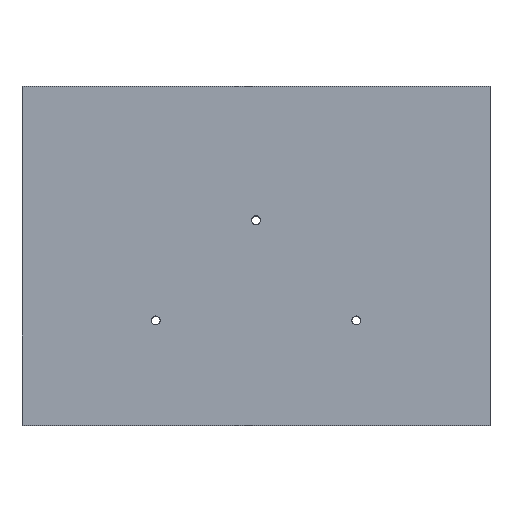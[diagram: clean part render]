
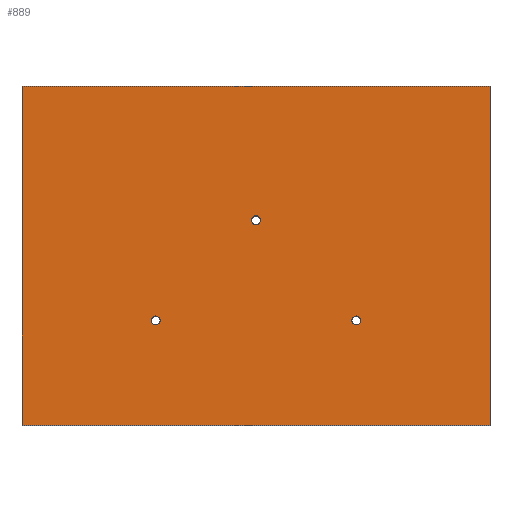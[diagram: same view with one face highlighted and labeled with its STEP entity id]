
A CAD part, top view. The second image highlights one B-rep face of the part: STEP entity #889.
In plain terms, the highlighted planar face has unit normal (0, 0, 1).
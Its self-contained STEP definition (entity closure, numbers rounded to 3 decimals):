
#13 = EDGE_CURVE ( 'NONE', #1559, #1184, #1254, .T. ) ;
#49 = AXIS2_PLACEMENT_3D ( 'NONE', #564, #1050, #1547 ) ;
#53 = VERTEX_POINT ( 'NONE', #1040 ) ;
#57 = CARTESIAN_POINT ( 'NONE',  ( 30., 23.5, 22.5 ) ) ;
#74 = DIRECTION ( 'NONE',  ( 0., 1., 0. ) ) ;
#79 = VERTEX_POINT ( 'NONE', #417 ) ;
#92 = DIRECTION ( 'NONE',  ( 0., 0., 1. ) ) ;
#127 = AXIS2_PLACEMENT_3D ( 'NONE', #1448, #1311, #701 ) ;
#158 = PLANE ( 'NONE',  #1099 ) ;
#176 = LINE ( 'NONE', #1054, #681 ) ;
#186 = DIRECTION ( 'NONE',  ( -1., 0., 0. ) ) ;
#194 = CARTESIAN_POINT ( 'NONE',  ( 52.5, 46., 22.5 ) ) ;
#253 = CARTESIAN_POINT ( 'NONE',  ( 0., 0., 22.5 ) ) ;
#260 = CIRCLE ( 'NONE', #389, 1. ) ;
#317 = FACE_BOUND ( 'NONE', #1488, .T. ) ;
#351 = ORIENTED_EDGE ( 'NONE', *, *, #1476, .F. ) ;
#385 = ORIENTED_EDGE ( 'NONE', *, *, #1500, .F. ) ;
#389 = AXIS2_PLACEMENT_3D ( 'NONE', #194, #1432, #1276 ) ;
#417 = CARTESIAN_POINT ( 'NONE',  ( 74., 23.5, 22.5 ) ) ;
#419 = VERTEX_POINT ( 'NONE', #629 ) ;
#430 = FACE_OUTER_BOUND ( 'NONE', #1601, .T. ) ;
#449 = EDGE_CURVE ( 'NONE', #1539, #1559, #176, .T. ) ;
#469 = CIRCLE ( 'NONE', #1477, 1. ) ;
#478 = EDGE_CURVE ( 'NONE', #53, #617, #260, .T. ) ;
#497 = VERTEX_POINT ( 'NONE', #805 ) ;
#501 = ORIENTED_EDGE ( 'NONE', *, *, #13, .T. ) ;
#510 = CARTESIAN_POINT ( 'NONE',  ( 0., 76., 22.5 ) ) ;
#538 = CARTESIAN_POINT ( 'NONE',  ( 31., 23.5, 22.5 ) ) ;
#544 = DIRECTION ( 'NONE',  ( 0., 0., 1. ) ) ;
#564 = CARTESIAN_POINT ( 'NONE',  ( 75., 23.5, 22.5 ) ) ;
#565 = EDGE_LOOP ( 'NONE', ( #1061, #385 ) ) ;
#568 = EDGE_CURVE ( 'NONE', #497, #1285, #881, .T. ) ;
#578 = VECTOR ( 'NONE', #816, 1000. ) ;
#584 = CARTESIAN_POINT ( 'NONE',  ( 51.5, 46., 22.5 ) ) ;
#593 = CARTESIAN_POINT ( 'NONE',  ( 0., 0., 22.5 ) ) ;
#617 = VERTEX_POINT ( 'NONE', #584 ) ;
#629 = CARTESIAN_POINT ( 'NONE',  ( 76., 23.5, 22.5 ) ) ;
#641 = VERTEX_POINT ( 'NONE', #949 ) ;
#650 = FACE_BOUND ( 'NONE', #565, .T. ) ;
#670 = EDGE_CURVE ( 'NONE', #419, #79, #682, .T. ) ;
#681 = VECTOR ( 'NONE', #186, 1000. ) ;
#682 = CIRCLE ( 'NONE', #808, 1. ) ;
#701 = DIRECTION ( 'NONE',  ( 1., 0., 0. ) ) ;
#707 = LINE ( 'NONE', #1066, #831 ) ;
#748 = CARTESIAN_POINT ( 'NONE',  ( 105., 76., 22.5 ) ) ;
#805 = CARTESIAN_POINT ( 'NONE',  ( 29., 23.5, 22.5 ) ) ;
#808 = AXIS2_PLACEMENT_3D ( 'NONE', #1088, #1196, #1560 ) ;
#811 = ORIENTED_EDGE ( 'NONE', *, *, #1227, .F. ) ;
#816 = DIRECTION ( 'NONE',  ( 1., 0., 0. ) ) ;
#831 = VECTOR ( 'NONE', #74, 1000. ) ;
#879 = ORIENTED_EDGE ( 'NONE', *, *, #1469, .T. ) ;
#881 = CIRCLE ( 'NONE', #1503, 1. ) ;
#889 = ADVANCED_FACE ( 'NONE', ( #430, #1294, #650, #317 ), #158, .F. ) ;
#901 = CIRCLE ( 'NONE', #49, 1. ) ;
#905 = CARTESIAN_POINT ( 'NONE',  ( 0., 0., 22.5 ) ) ;
#912 = ORIENTED_EDGE ( 'NONE', *, *, #670, .F. ) ;
#949 = CARTESIAN_POINT ( 'NONE',  ( 105., 0., 22.5 ) ) ;
#1027 = DIRECTION ( 'NONE',  ( 0., 0., -1. ) ) ;
#1029 = DIRECTION ( 'NONE',  ( 1., 0., 0. ) ) ;
#1040 = CARTESIAN_POINT ( 'NONE',  ( 53.5, 46., 22.5 ) ) ;
#1050 = DIRECTION ( 'NONE',  ( 0., 0., 1. ) ) ;
#1054 = CARTESIAN_POINT ( 'NONE',  ( 0., 76., 22.5 ) ) ;
#1061 = ORIENTED_EDGE ( 'NONE', *, *, #568, .F. ) ;
#1066 = CARTESIAN_POINT ( 'NONE',  ( 105., 0., 22.5 ) ) ;
#1088 = CARTESIAN_POINT ( 'NONE',  ( 75., 23.5, 22.5 ) ) ;
#1099 = AXIS2_PLACEMENT_3D ( 'NONE', #905, #1027, #1419 ) ;
#1139 = CIRCLE ( 'NONE', #127, 1. ) ;
#1177 = ORIENTED_EDGE ( 'NONE', *, *, #478, .F. ) ;
#1179 = VECTOR ( 'NONE', #1584, 1000. ) ;
#1184 = VERTEX_POINT ( 'NONE', #253 ) ;
#1196 = DIRECTION ( 'NONE',  ( 0., 0., 1. ) ) ;
#1205 = CARTESIAN_POINT ( 'NONE',  ( 30., 23.5, 22.5 ) ) ;
#1227 = EDGE_CURVE ( 'NONE', #79, #419, #901, .T. ) ;
#1254 = LINE ( 'NONE', #1481, #1179 ) ;
#1276 = DIRECTION ( 'NONE',  ( 1., 0., 0. ) ) ;
#1285 = VERTEX_POINT ( 'NONE', #538 ) ;
#1294 = FACE_BOUND ( 'NONE', #1315, .T. ) ;
#1295 = ORIENTED_EDGE ( 'NONE', *, *, #449, .T. ) ;
#1311 = DIRECTION ( 'NONE',  ( 0., 0., 1. ) ) ;
#1315 = EDGE_LOOP ( 'NONE', ( #351, #1177 ) ) ;
#1334 = ORIENTED_EDGE ( 'NONE', *, *, #1353, .T. ) ;
#1353 = EDGE_CURVE ( 'NONE', #641, #1539, #707, .T. ) ;
#1362 = DIRECTION ( 'NONE',  ( 1., 0., 0. ) ) ;
#1419 = DIRECTION ( 'NONE',  ( -1., 0., 0. ) ) ;
#1432 = DIRECTION ( 'NONE',  ( 0., 0., 1. ) ) ;
#1435 = LINE ( 'NONE', #593, #578 ) ;
#1448 = CARTESIAN_POINT ( 'NONE',  ( 52.5, 46., 22.5 ) ) ;
#1469 = EDGE_CURVE ( 'NONE', #1184, #641, #1435, .T. ) ;
#1476 = EDGE_CURVE ( 'NONE', #617, #53, #1139, .T. ) ;
#1477 = AXIS2_PLACEMENT_3D ( 'NONE', #1205, #92, #1362 ) ;
#1481 = CARTESIAN_POINT ( 'NONE',  ( 0., 0., 22.5 ) ) ;
#1488 = EDGE_LOOP ( 'NONE', ( #811, #912 ) ) ;
#1500 = EDGE_CURVE ( 'NONE', #1285, #497, #469, .T. ) ;
#1503 = AXIS2_PLACEMENT_3D ( 'NONE', #57, #544, #1029 ) ;
#1539 = VERTEX_POINT ( 'NONE', #748 ) ;
#1547 = DIRECTION ( 'NONE',  ( 1., 0., 0. ) ) ;
#1559 = VERTEX_POINT ( 'NONE', #510 ) ;
#1560 = DIRECTION ( 'NONE',  ( 1., 0., 0. ) ) ;
#1584 = DIRECTION ( 'NONE',  ( 0., -1., 0. ) ) ;
#1601 = EDGE_LOOP ( 'NONE', ( #501, #879, #1334, #1295 ) ) ;
